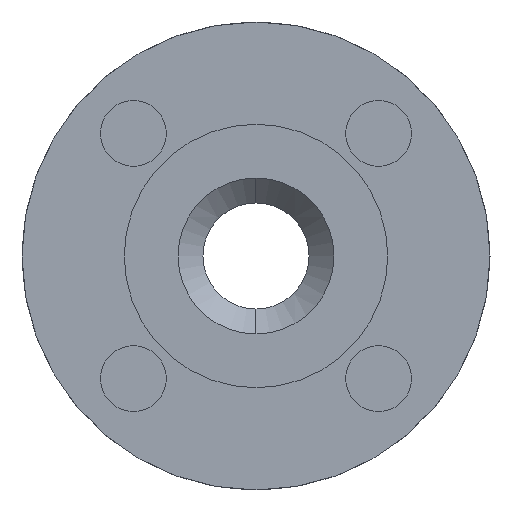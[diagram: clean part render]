
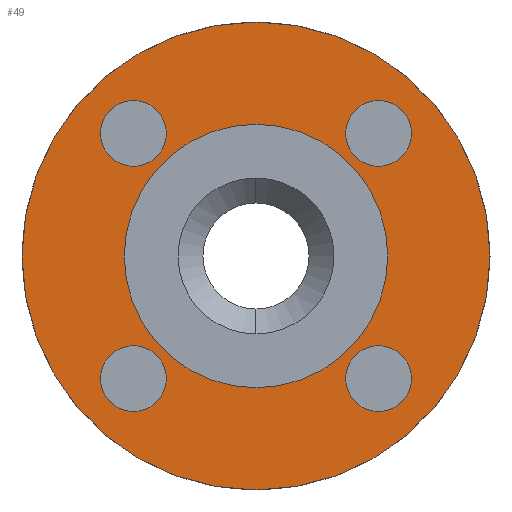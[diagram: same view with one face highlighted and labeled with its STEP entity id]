
A CAD part, left-side view. The second image highlights one B-rep face of the part: STEP entity #49.
In plain terms, the highlighted planar face has unit normal (-1, 0, 0).
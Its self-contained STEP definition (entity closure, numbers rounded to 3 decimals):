
#49=ADVANCED_FACE('',(#244,#245,#246,#247,#248,#249),#243,.F.);
#243=PLANE('',#1262);
#244=FACE_OUTER_BOUND('',#1263,.T.);
#245=FACE_BOUND('',#1264,.T.);
#246=FACE_BOUND('',#1265,.T.);
#247=FACE_BOUND('',#1266,.T.);
#248=FACE_BOUND('',#1267,.T.);
#249=FACE_BOUND('',#1268,.T.);
#1259=CARTESIAN_POINT('',(2.,-126.913,77.5));
#1260=DIRECTION('',(1.,0.,0.));
#1261=DIRECTION('',(0.,0.,-1.));
#1262=AXIS2_PLACEMENT_3D('',#1259,#1260,#1261);
#1263=EDGE_LOOP('',(#2196,#2197));
#1264=EDGE_LOOP('',(#2198,#2199));
#1265=EDGE_LOOP('',(#2200,#2201));
#1266=EDGE_LOOP('',(#2202,#2203));
#1267=EDGE_LOOP('',(#2204,#2205));
#1268=EDGE_LOOP('',(#2206,#2207));
#2196=ORIENTED_EDGE('',*,*,#2668,.T.);
#2197=ORIENTED_EDGE('',*,*,#2669,.T.);
#2198=ORIENTED_EDGE('',*,*,#2670,.F.);
#2199=ORIENTED_EDGE('',*,*,#2671,.F.);
#2200=ORIENTED_EDGE('',*,*,#2672,.F.);
#2201=ORIENTED_EDGE('',*,*,#2673,.F.);
#2202=ORIENTED_EDGE('',*,*,#2674,.F.);
#2203=ORIENTED_EDGE('',*,*,#2675,.F.);
#2204=ORIENTED_EDGE('',*,*,#2676,.F.);
#2205=ORIENTED_EDGE('',*,*,#2677,.F.);
#2206=ORIENTED_EDGE('',*,*,#2678,.F.);
#2207=ORIENTED_EDGE('',*,*,#2679,.F.);
#2668=EDGE_CURVE('',#3168,#3169,#3170,.T.);
#2669=EDGE_CURVE('',#3169,#3168,#3176,.T.);
#2670=EDGE_CURVE('',#3182,#3183,#3184,.T.);
#2671=EDGE_CURVE('',#3183,#3182,#3190,.T.);
#2672=EDGE_CURVE('',#3196,#3197,#3198,.T.);
#2673=EDGE_CURVE('',#3197,#3196,#3204,.T.);
#2674=EDGE_CURVE('',#3210,#3211,#3212,.T.);
#2675=EDGE_CURVE('',#3211,#3210,#3218,.T.);
#2676=EDGE_CURVE('',#3224,#3225,#3226,.T.);
#2677=EDGE_CURVE('',#3225,#3224,#3232,.T.);
#2678=EDGE_CURVE('',#3238,#3239,#3240,.T.);
#2679=EDGE_CURVE('',#3239,#3238,#3246,.T.);
#3168=VERTEX_POINT('',#4635);
#3169=VERTEX_POINT('',#4636);
#3170=CIRCLE('',#4640,67.5);
#3176=CIRCLE('',#4644,67.5);
#3182=VERTEX_POINT('',#4645);
#3183=VERTEX_POINT('',#4646);
#3184=CIRCLE('',#4650,9.5);
#3190=CIRCLE('',#4654,9.5);
#3196=VERTEX_POINT('',#4655);
#3197=VERTEX_POINT('',#4656);
#3198=CIRCLE('',#4660,9.5);
#3204=CIRCLE('',#4664,9.5);
#3210=VERTEX_POINT('',#4665);
#3211=VERTEX_POINT('',#4666);
#3212=CIRCLE('',#4670,9.5);
#3218=CIRCLE('',#4674,9.5);
#3224=VERTEX_POINT('',#4675);
#3225=VERTEX_POINT('',#4676);
#3226=CIRCLE('',#4680,38.);
#3232=CIRCLE('',#4684,38.);
#3238=VERTEX_POINT('',#4685);
#3239=VERTEX_POINT('',#4686);
#3240=CIRCLE('',#4690,9.5);
#3246=CIRCLE('',#4694,9.5);
#4635=CARTESIAN_POINT('',(2.,0.,67.5));
#4636=CARTESIAN_POINT('',(2.,0.,-67.5));
#4637=CARTESIAN_POINT('',(2.,0.,0.));
#4638=DIRECTION('',(-1.,0.,0.));
#4639=DIRECTION('',(0.,0.,1.));
#4640=AXIS2_PLACEMENT_3D('',#4637,#4638,#4639);
#4641=CARTESIAN_POINT('',(2.,0.,0.));
#4642=DIRECTION('',(-1.,0.,0.));
#4643=DIRECTION('',(0.,0.,1.));
#4644=AXIS2_PLACEMENT_3D('',#4641,#4642,#4643);
#4645=CARTESIAN_POINT('',(2.,-35.355,-25.855));
#4646=CARTESIAN_POINT('',(2.,-35.355,-44.855));
#4647=CARTESIAN_POINT('',(2.,-35.355,-35.355));
#4648=DIRECTION('',(-1.,0.,0.));
#4649=DIRECTION('',(0.,0.,-1.));
#4650=AXIS2_PLACEMENT_3D('',#4647,#4648,#4649);
#4651=CARTESIAN_POINT('',(2.,-35.355,-35.355));
#4652=DIRECTION('',(-1.,0.,0.));
#4653=DIRECTION('',(0.,0.,-1.));
#4654=AXIS2_PLACEMENT_3D('',#4651,#4652,#4653);
#4655=CARTESIAN_POINT('',(2.,35.355,-25.855));
#4656=CARTESIAN_POINT('',(2.,35.355,-44.855));
#4657=CARTESIAN_POINT('',(2.,35.355,-35.355));
#4658=DIRECTION('',(-1.,0.,0.));
#4659=DIRECTION('',(0.,0.,-1.));
#4660=AXIS2_PLACEMENT_3D('',#4657,#4658,#4659);
#4661=CARTESIAN_POINT('',(2.,35.355,-35.355));
#4662=DIRECTION('',(-1.,0.,0.));
#4663=DIRECTION('',(0.,0.,-1.));
#4664=AXIS2_PLACEMENT_3D('',#4661,#4662,#4663);
#4665=CARTESIAN_POINT('',(2.,35.355,44.855));
#4666=CARTESIAN_POINT('',(2.,35.355,25.855));
#4667=CARTESIAN_POINT('',(2.,35.355,35.355));
#4668=DIRECTION('',(-1.,0.,0.));
#4669=DIRECTION('',(0.,0.,-1.));
#4670=AXIS2_PLACEMENT_3D('',#4667,#4668,#4669);
#4671=CARTESIAN_POINT('',(2.,35.355,35.355));
#4672=DIRECTION('',(-1.,0.,0.));
#4673=DIRECTION('',(0.,0.,-1.));
#4674=AXIS2_PLACEMENT_3D('',#4671,#4672,#4673);
#4675=CARTESIAN_POINT('',(2.,0.,-38.));
#4676=CARTESIAN_POINT('',(2.,0.,38.));
#4677=CARTESIAN_POINT('',(2.,0.,0.));
#4678=DIRECTION('',(-1.,0.,0.));
#4679=DIRECTION('',(0.,0.,1.));
#4680=AXIS2_PLACEMENT_3D('',#4677,#4678,#4679);
#4681=CARTESIAN_POINT('',(2.,0.,0.));
#4682=DIRECTION('',(-1.,0.,0.));
#4683=DIRECTION('',(0.,0.,1.));
#4684=AXIS2_PLACEMENT_3D('',#4681,#4682,#4683);
#4685=CARTESIAN_POINT('',(2.,-35.355,44.855));
#4686=CARTESIAN_POINT('',(2.,-35.355,25.855));
#4687=CARTESIAN_POINT('',(2.,-35.355,35.355));
#4688=DIRECTION('',(-1.,0.,0.));
#4689=DIRECTION('',(0.,0.,-1.));
#4690=AXIS2_PLACEMENT_3D('',#4687,#4688,#4689);
#4691=CARTESIAN_POINT('',(2.,-35.355,35.355));
#4692=DIRECTION('',(-1.,0.,0.));
#4693=DIRECTION('',(0.,0.,-1.));
#4694=AXIS2_PLACEMENT_3D('',#4691,#4692,#4693);
